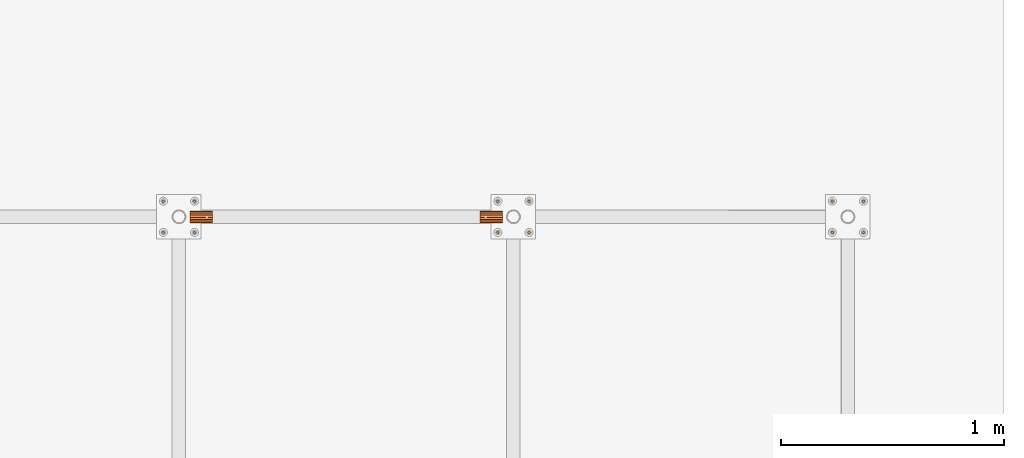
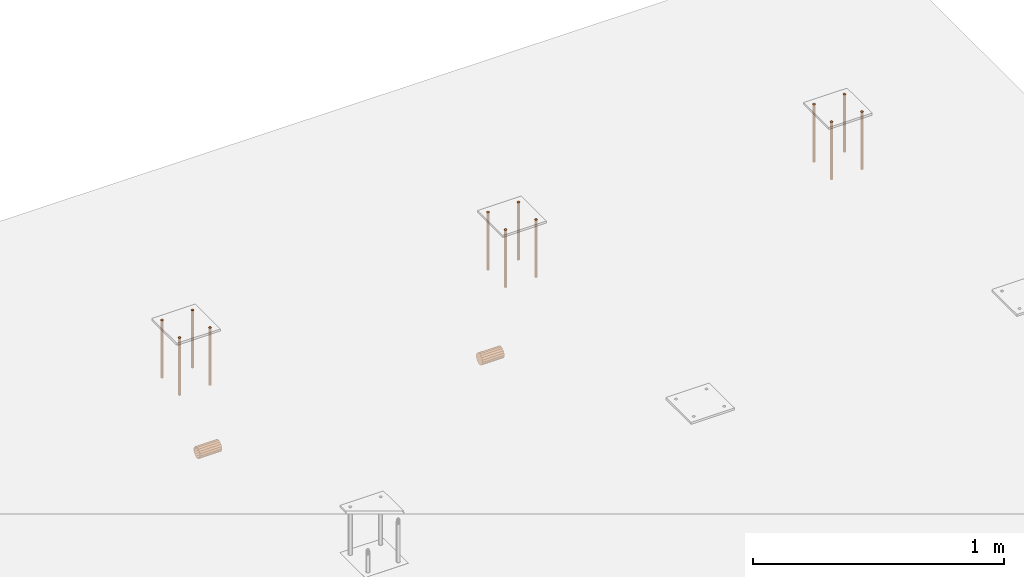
# One storey, part 18 of 30: 14 proxies.
"""IFC2X3 building model written with IfcOpenShell, lengths in millimetres."""

from ifc_helpers import new_model, entity, si_unit, converted_unit, origin_with_axes, place, context, project, spatial, faceted_brep, material, element, save


model = new_model("IFC2X3")

# Units and contexts
model_context = context("Model", 3, precision=1e-09, world=origin_with_axes())
ifc_project = project(units=[si_unit("LENGTHUNIT", "METRE", prefix="MILLI"), si_unit("AREAUNIT", "SQUARE_METRE"), si_unit("VOLUMEUNIT", "CUBIC_METRE"), converted_unit("PLANEANGLEUNIT", "DEGREE", entity("IfcPlaneAngleMeasure", 0.01745329), si_unit("PLANEANGLEUNIT", "RADIAN"), dimensions=[0, 0, 0, 0, 0, 0, 0])], contexts=[model_context])

# Site, building, storey
site_placement = place(None, origin_with_axes())
site = spatial("IfcSite", under=ifc_project, at=site_placement, Name="M?nsinger Stra?e, 81477 M?nchen", CompositionType="ELEMENT")
building_placement = place(site_placement, origin_with_axes())
building = spatial("IfcBuilding", under=site, at=building_placement, Name="Struktur 1", CompositionType="ELEMENT")
storey_placement = place(building_placement, origin_with_axes())
storey = spatial("IfcBuildingStorey", under=building, at=storey_placement, Name="Default Storey", CompositionType="ELEMENT", Elevation=0.0)

# Proxies
ifc_material_1 = material(Name="S235JR")
proxy_1_placement = place(None, origin_with_axes())
element("IfcBuildingElementProxy", 1, at=proxy_1_placement, inside=storey, material=ifc_material_1, ObjectType="-", context=model_context, shape_type="Brep", body=[
    faceted_brep([(6056.315117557, 4514.006567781, 6095.917939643), (6056.315117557, 4517.557789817, 6105.084700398), (6056.315117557, 4517.557789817, 6114.915299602), (6056.315117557, 4514.006567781, 6124.082060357), (6056.315117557, 4507.383735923, 6131.34696083), (6056.315117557, 4498.583744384, 6135.728835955), (6056.315117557, 4488.795080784, 6136.635889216), (6056.315117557, 4479.339758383, 6133.945618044), (6056.315117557, 4471.494770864, 6128.021358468), (6056.315117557, 4466.319627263, 6119.663214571), (6056.315117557, 4464.5132594, 6110.0), (6056.315117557, 4466.319627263, 6100.336785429), (6056.315117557, 4471.494770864, 6091.978641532), (6056.315117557, 4479.339758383, 6086.054381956), (6056.315117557, 4488.795080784, 6083.364110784), (6056.315117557, 4498.583744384, 6084.271164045), (6056.315117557, 4507.383735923, 6088.65303917), (6056.315117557, 4516.2632594, 6110.0), (6056.315117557, 4514.360247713, 6100.432914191), (6056.315117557, 4508.94092893, 6092.32233047), (6056.315117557, 4500.830345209, 6086.903011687), (6056.315117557, 4491.2632594, 6085.0), (6056.315117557, 4481.696173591, 6086.903011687), (6056.315117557, 4473.58558987, 6092.32233047), (6056.315117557, 4468.166271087, 6100.432914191), (6056.315117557, 4466.2632594, 6110.0), (6056.315117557, 4468.166271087, 6119.567085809), (6056.315117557, 4473.58558987, 6127.67766953), (6056.315117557, 4481.696173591, 6133.096988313), (6056.315117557, 4491.2632594, 6135.0), (6056.315117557, 4500.830345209, 6133.096988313), (6056.315117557, 4508.94092893, 6127.67766953), (6056.315117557, 4514.360247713, 6119.567085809), (5956.315117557, 4516.2632594, 6110.0), (5956.315117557, 4514.360247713, 6119.567085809), (5956.315117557, 4517.557789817, 6105.084700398), (5956.315117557, 4517.557789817, 6114.915299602), (5956.315117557, 4514.360247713, 6100.432914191), (5956.315117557, 4514.006567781, 6095.917939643), (5956.315117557, 4507.383735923, 6088.65303917), (5956.315117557, 4498.583744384, 6084.271164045), (5956.315117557, 4488.795080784, 6083.364110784), (5956.315117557, 4479.339758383, 6086.054381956), (5956.315117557, 4471.494770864, 6091.978641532), (5956.315117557, 4466.319627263, 6100.336785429), (5956.315117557, 4464.5132594, 6110.0), (5956.315117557, 4466.319627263, 6119.663214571), (5956.315117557, 4471.494770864, 6128.021358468), (5956.315117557, 4479.339758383, 6133.945618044), (5956.315117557, 4488.795080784, 6136.635889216), (5956.315117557, 4498.583744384, 6135.728835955), (5956.315117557, 4507.383735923, 6131.34696083), (5956.315117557, 4514.006567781, 6124.082060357), (5956.315117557, 4508.94092893, 6092.32233047), (5956.315117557, 4508.94092893, 6127.67766953), (5956.315117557, 4500.830345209, 6133.096988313), (5956.315117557, 4491.2632594, 6135.0), (5956.315117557, 4481.696173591, 6133.096988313), (5956.315117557, 4473.58558987, 6127.67766953), (5956.315117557, 4468.166271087, 6119.567085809), (5956.315117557, 4466.2632594, 6110.0), (5956.315117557, 4468.166271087, 6100.432914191), (5956.315117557, 4473.58558987, 6092.32233047), (5956.315117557, 4481.696173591, 6086.903011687), (5956.315117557, 4491.2632594, 6085.0), (5956.315117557, 4500.830345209, 6086.903011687)], [[[0, 1, 2, 3, 4, 5, 6, 7, 8, 9, 10, 11, 12, 13, 14, 15, 16], [17, 18, 19, 20, 21, 22, 23, 24, 25, 26, 27, 28, 29, 30, 31, 32]], [[33, 17, 32, 34]], [[2, 1, 35, 36]], [[17, 33, 37, 18]], [[35, 38, 39, 40, 41, 42, 43, 44, 45, 46, 47, 48, 49, 50, 51, 52, 36], [53, 37, 33, 34, 54, 55, 56, 57, 58, 59, 60, 61, 62, 63, 64, 65]], [[36, 52, 3, 2]], [[1, 0, 38, 35]], [[34, 32, 31, 54]], [[18, 37, 53, 19]], [[52, 51, 4, 3]], [[0, 16, 39, 38]], [[54, 31, 30, 55]], [[19, 53, 65, 20]], [[51, 50, 5, 4]], [[16, 15, 40, 39]], [[55, 30, 29, 56]], [[20, 65, 64, 21]], [[50, 49, 6, 5]], [[15, 14, 41, 40]], [[56, 29, 28, 57]], [[21, 64, 63, 22]], [[49, 48, 7, 6]], [[14, 13, 42, 41]], [[57, 28, 27, 58]], [[22, 63, 62, 23]], [[48, 47, 8, 7]], [[13, 12, 43, 42]], [[58, 27, 26, 59]], [[23, 62, 61, 24]], [[47, 46, 9, 8]], [[12, 11, 44, 43]], [[59, 26, 25, 60]], [[24, 61, 60, 25]], [[46, 45, 10, 9]], [[11, 10, 45, 44]]]),
])
proxy_2_placement = place(None, origin_with_axes())
element("IfcBuildingElementProxy", 2, at=proxy_2_placement, inside=storey, material=ifc_material_1, ObjectType="-", context=model_context, shape_type="Brep", body=[
    faceted_brep([(7256.315117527, 4517.557789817, 6105.084700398), (7256.315117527, 4514.006567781, 6095.917939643), (7256.315117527, 4507.383735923, 6088.65303917), (7256.315117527, 4498.583744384, 6084.271164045), (7256.315117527, 4488.795080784, 6083.364110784), (7256.315117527, 4479.339758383, 6086.054381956), (7256.315117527, 4471.494770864, 6091.978641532), (7256.315117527, 4466.319627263, 6100.336785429), (7256.315117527, 4464.5132594, 6110.0), (7256.315117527, 4466.319627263, 6119.663214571), (7256.315117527, 4471.494770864, 6128.021358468), (7256.315117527, 4479.339758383, 6133.945618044), (7256.315117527, 4488.795080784, 6136.635889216), (7256.315117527, 4498.583744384, 6135.728835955), (7256.315117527, 4507.383735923, 6131.34696083), (7256.315117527, 4514.006567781, 6124.082060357), (7256.315117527, 4517.557789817, 6114.915299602), (7256.315117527, 4516.2632594, 6110.0), (7356.315117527, 4516.2632594, 6110.0), (7356.315117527, 4514.360247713, 6119.567085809), (7256.315117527, 4514.360247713, 6119.567085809), (7356.315117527, 4517.557789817, 6114.915299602), (7356.315117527, 4517.557789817, 6105.084700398), (7256.315117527, 4514.360247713, 6100.432914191), (7356.315117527, 4514.360247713, 6100.432914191), (7356.315117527, 4514.006567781, 6124.082060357), (7356.315117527, 4507.383735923, 6131.34696083), (7356.315117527, 4498.583744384, 6135.728835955), (7356.315117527, 4488.795080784, 6136.635889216), (7356.315117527, 4479.339758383, 6133.945618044), (7356.315117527, 4471.494770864, 6128.021358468), (7356.315117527, 4466.319627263, 6119.663214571), (7356.315117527, 4464.5132594, 6110.0), (7356.315117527, 4466.319627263, 6100.336785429), (7356.315117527, 4471.494770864, 6091.978641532), (7356.315117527, 4479.339758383, 6086.054381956), (7356.315117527, 4488.795080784, 6083.364110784), (7356.315117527, 4498.583744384, 6084.271164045), (7356.315117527, 4507.383735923, 6088.65303917), (7356.315117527, 4514.006567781, 6095.917939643), (7356.315117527, 4508.94092893, 6092.32233047), (7356.315117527, 4500.830345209, 6086.903011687), (7356.315117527, 4491.2632594, 6085.0), (7356.315117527, 4481.696173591, 6086.903011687), (7356.315117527, 4473.58558987, 6092.32233047), (7356.315117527, 4468.166271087, 6100.432914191), (7356.315117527, 4466.2632594, 6110.0), (7356.315117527, 4468.166271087, 6119.567085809), (7356.315117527, 4473.58558987, 6127.67766953), (7356.315117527, 4481.696173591, 6133.096988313), (7356.315117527, 4491.2632594, 6135.0), (7356.315117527, 4500.830345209, 6133.096988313), (7356.315117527, 4508.94092893, 6127.67766953), (7256.315117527, 4508.94092893, 6127.67766953), (7256.315117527, 4508.94092893, 6092.32233047), (7256.315117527, 4500.830345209, 6133.096988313), (7256.315117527, 4500.830345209, 6086.903011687), (7256.315117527, 4491.2632594, 6135.0), (7256.315117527, 4491.2632594, 6085.0), (7256.315117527, 4481.696173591, 6133.096988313), (7256.315117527, 4481.696173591, 6086.903011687), (7256.315117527, 4473.58558987, 6127.67766953), (7256.315117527, 4473.58558987, 6092.32233047), (7256.315117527, 4468.166271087, 6119.567085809), (7256.315117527, 4468.166271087, 6100.432914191), (7256.315117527, 4466.2632594, 6110.0)], [[[0, 1, 2, 3, 4, 5, 6, 7, 8, 9, 10, 11, 12, 13, 14, 15, 16]], [[17, 18, 19, 20]], [[0, 16, 21, 22]], [[18, 17, 23, 24]], [[22, 21, 25, 26, 27, 28, 29, 30, 31, 32, 33, 34, 35, 36, 37, 38, 39], [24, 40, 41, 42, 43, 44, 45, 46, 47, 48, 49, 50, 51, 52, 19, 18]], [[25, 21, 16, 15]], [[1, 0, 22, 39]], [[20, 19, 52, 53]], [[24, 23, 54, 40]], [[26, 25, 15, 14]], [[2, 1, 39, 38]], [[53, 52, 51, 55]], [[40, 54, 56, 41]], [[27, 26, 14, 13]], [[3, 2, 38, 37]], [[55, 51, 50, 57]], [[41, 56, 58, 42]], [[28, 27, 13, 12]], [[4, 3, 37, 36]], [[57, 50, 49, 59]], [[42, 58, 60, 43]], [[29, 28, 12, 11]], [[5, 4, 36, 35]], [[59, 49, 48, 61]], [[43, 60, 62, 44]], [[30, 29, 11, 10]], [[6, 5, 35, 34]], [[61, 48, 47, 63]], [[44, 62, 64, 45]], [[31, 30, 10, 9]], [[7, 6, 34, 33]], [[63, 47, 46, 65]], [[45, 64, 65, 46]], [[32, 31, 9, 8]], [[8, 7, 33, 32]]]),
])
ifc_material_2 = material(Name="Kein")
proxy_3_placement = place(None, origin_with_axes())
element("IfcBuildingElementProxy", 3, at=proxy_3_placement, inside=storey, material=ifc_material_2, ObjectType="-", context=model_context, shape_type="Brep", body=[
    faceted_brep([(8976.315117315, 4555.2632594, 6755.0), (8976.315117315, 4555.2632594, 6475.0), (8979.315117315, 4556.067106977, 6475.0), (8979.315117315, 4556.067106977, 6755.0), (8973.315117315, 4556.067106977, 6755.0), (8973.315117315, 4556.067106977, 6475.0), (8971.118964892, 4564.2632594, 6475.0), (8973.315117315, 4566.459411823, 6475.0), (8976.315117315, 4567.2632594, 6475.0), (8979.315117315, 4566.459411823, 6475.0), (8981.511269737, 4564.2632594, 6475.0), (8982.315117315, 4561.2632594, 6475.0), (8981.511269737, 4558.2632594, 6475.0), (8971.118964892, 4558.2632594, 6475.0), (8970.315117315, 4561.2632594, 6475.0), (8981.511269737, 4564.2632594, 6755.0), (8979.315117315, 4566.459411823, 6755.0), (8976.315117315, 4567.2632594, 6755.0), (8973.315117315, 4566.459411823, 6755.0), (8971.118964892, 4564.2632594, 6755.0), (8970.315117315, 4561.2632594, 6755.0), (8971.118964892, 4558.2632594, 6755.0), (8981.511269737, 4558.2632594, 6755.0), (8982.315117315, 4561.2632594, 6755.0)], [[[0, 1, 2, 3]], [[1, 0, 4, 5]], [[6, 7, 8, 9, 10, 11, 12, 2, 1, 5, 13, 14]], [[15, 16, 17, 18, 19, 20, 21, 4, 0, 3, 22, 23]], [[3, 2, 12, 22]], [[5, 4, 21, 13]], [[11, 23, 22, 12]], [[10, 15, 23, 11]], [[13, 21, 20, 14]], [[16, 9, 8, 17]], [[15, 10, 9, 16]], [[17, 8, 7, 18]], [[14, 20, 19, 6]], [[18, 7, 6, 19]]]),
])
proxy_4_placement = place(None, origin_with_axes())
element("IfcBuildingElementProxy", 4, at=proxy_4_placement, inside=storey, material=ifc_material_2, ObjectType="-", context=model_context, shape_type="Brep", body=[
    faceted_brep([(8836.315117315, 4555.2632594, 6755.0), (8836.315117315, 4555.2632594, 6475.0), (8839.315117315, 4556.067106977, 6475.0), (8839.315117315, 4556.067106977, 6755.0), (8833.315117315, 4556.067106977, 6755.0), (8833.315117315, 4556.067106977, 6475.0), (8831.118964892, 4564.2632594, 6475.0), (8833.315117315, 4566.459411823, 6475.0), (8836.315117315, 4567.2632594, 6475.0), (8839.315117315, 4566.459411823, 6475.0), (8841.511269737, 4564.2632594, 6475.0), (8842.315117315, 4561.2632594, 6475.0), (8841.511269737, 4558.2632594, 6475.0), (8831.118964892, 4558.2632594, 6475.0), (8830.315117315, 4561.2632594, 6475.0), (8841.511269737, 4564.2632594, 6755.0), (8839.315117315, 4566.459411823, 6755.0), (8836.315117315, 4567.2632594, 6755.0), (8833.315117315, 4566.459411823, 6755.0), (8831.118964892, 4564.2632594, 6755.0), (8830.315117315, 4561.2632594, 6755.0), (8831.118964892, 4558.2632594, 6755.0), (8841.511269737, 4558.2632594, 6755.0), (8842.315117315, 4561.2632594, 6755.0)], [[[0, 1, 2, 3]], [[1, 0, 4, 5]], [[6, 7, 8, 9, 10, 11, 12, 2, 1, 5, 13, 14]], [[15, 16, 17, 18, 19, 20, 21, 4, 0, 3, 22, 23]], [[3, 2, 12, 22]], [[5, 4, 21, 13]], [[11, 23, 22, 12]], [[10, 15, 23, 11]], [[13, 21, 20, 14]], [[16, 9, 8, 17]], [[15, 10, 9, 16]], [[17, 8, 7, 18]], [[14, 20, 19, 6]], [[18, 7, 6, 19]]]),
])
proxy_5_placement = place(None, origin_with_axes())
element("IfcBuildingElementProxy", 5, at=proxy_5_placement, inside=storey, material=ifc_material_2, ObjectType="-", context=model_context, shape_type="Brep", body=[
    faceted_brep([(8976.315117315, 4415.2632594, 6755.0), (8976.315117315, 4415.2632594, 6475.0), (8979.315117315, 4416.067106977, 6475.0), (8979.315117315, 4416.067106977, 6755.0), (8973.315117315, 4416.067106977, 6755.0), (8973.315117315, 4416.067106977, 6475.0), (8971.118964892, 4424.2632594, 6475.0), (8973.315117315, 4426.459411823, 6475.0), (8976.315117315, 4427.2632594, 6475.0), (8979.315117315, 4426.459411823, 6475.0), (8981.511269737, 4424.2632594, 6475.0), (8982.315117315, 4421.2632594, 6475.0), (8981.511269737, 4418.2632594, 6475.0), (8971.118964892, 4418.2632594, 6475.0), (8970.315117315, 4421.2632594, 6475.0), (8981.511269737, 4424.2632594, 6755.0), (8979.315117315, 4426.459411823, 6755.0), (8976.315117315, 4427.2632594, 6755.0), (8973.315117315, 4426.459411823, 6755.0), (8971.118964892, 4424.2632594, 6755.0), (8970.315117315, 4421.2632594, 6755.0), (8971.118964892, 4418.2632594, 6755.0), (8981.511269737, 4418.2632594, 6755.0), (8982.315117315, 4421.2632594, 6755.0)], [[[0, 1, 2, 3]], [[1, 0, 4, 5]], [[6, 7, 8, 9, 10, 11, 12, 2, 1, 5, 13, 14]], [[15, 16, 17, 18, 19, 20, 21, 4, 0, 3, 22, 23]], [[3, 2, 12, 22]], [[5, 4, 21, 13]], [[11, 23, 22, 12]], [[10, 15, 23, 11]], [[13, 21, 20, 14]], [[16, 9, 8, 17]], [[15, 10, 9, 16]], [[17, 8, 7, 18]], [[14, 20, 19, 6]], [[18, 7, 6, 19]]]),
])
proxy_6_placement = place(None, origin_with_axes())
element("IfcBuildingElementProxy", 6, at=proxy_6_placement, inside=storey, material=ifc_material_2, ObjectType="-", context=model_context, shape_type="Brep", body=[
    faceted_brep([(8836.315117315, 4415.2632594, 6755.0), (8836.315117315, 4415.2632594, 6475.0), (8839.315117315, 4416.067106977, 6475.0), (8839.315117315, 4416.067106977, 6755.0), (8833.315117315, 4416.067106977, 6755.0), (8833.315117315, 4416.067106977, 6475.0), (8831.118964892, 4424.2632594, 6475.0), (8833.315117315, 4426.459411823, 6475.0), (8836.315117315, 4427.2632594, 6475.0), (8839.315117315, 4426.459411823, 6475.0), (8841.511269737, 4424.2632594, 6475.0), (8842.315117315, 4421.2632594, 6475.0), (8841.511269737, 4418.2632594, 6475.0), (8831.118964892, 4418.2632594, 6475.0), (8830.315117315, 4421.2632594, 6475.0), (8841.511269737, 4424.2632594, 6755.0), (8839.315117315, 4426.459411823, 6755.0), (8836.315117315, 4427.2632594, 6755.0), (8833.315117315, 4426.459411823, 6755.0), (8831.118964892, 4424.2632594, 6755.0), (8830.315117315, 4421.2632594, 6755.0), (8831.118964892, 4418.2632594, 6755.0), (8841.511269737, 4418.2632594, 6755.0), (8842.315117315, 4421.2632594, 6755.0)], [[[0, 1, 2, 3]], [[1, 0, 4, 5]], [[6, 7, 8, 9, 10, 11, 12, 2, 1, 5, 13, 14]], [[15, 16, 17, 18, 19, 20, 21, 4, 0, 3, 22, 23]], [[3, 2, 12, 22]], [[5, 4, 21, 13]], [[11, 23, 22, 12]], [[10, 15, 23, 11]], [[13, 21, 20, 14]], [[16, 9, 8, 17]], [[15, 10, 9, 16]], [[17, 8, 7, 18]], [[14, 20, 19, 6]], [[18, 7, 6, 19]]]),
])
proxy_7_placement = place(None, origin_with_axes())
element("IfcBuildingElementProxy", 7, at=proxy_7_placement, inside=storey, material=ifc_material_2, ObjectType="-", context=model_context, shape_type="Brep", body=[
    faceted_brep([(5830.315117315, 4561.2632594, 6475.0), (5830.315117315, 4561.2632594, 6755.0), (5831.118964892, 4564.2632594, 6755.0), (5831.118964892, 4564.2632594, 6475.0), (5831.118964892, 4558.2632594, 6475.0), (5831.118964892, 4558.2632594, 6755.0), (5841.511269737, 4558.2632594, 6475.0), (5839.315117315, 4556.067106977, 6475.0), (5836.315117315, 4555.2632594, 6475.0), (5833.315117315, 4556.067106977, 6475.0), (5833.315117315, 4566.459411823, 6475.0), (5836.315117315, 4567.2632594, 6475.0), (5839.315117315, 4566.459411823, 6475.0), (5841.511269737, 4564.2632594, 6475.0), (5842.315117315, 4561.2632594, 6475.0), (5841.511269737, 4564.2632594, 6755.0), (5839.315117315, 4566.459411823, 6755.0), (5836.315117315, 4567.2632594, 6755.0), (5833.315117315, 4566.459411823, 6755.0), (5833.315117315, 4556.067106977, 6755.0), (5836.315117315, 4555.2632594, 6755.0), (5839.315117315, 4556.067106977, 6755.0), (5841.511269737, 4558.2632594, 6755.0), (5842.315117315, 4561.2632594, 6755.0)], [[[0, 1, 2, 3]], [[1, 0, 4, 5]], [[6, 7, 8, 9, 4, 0, 3, 10, 11, 12, 13, 14]], [[15, 16, 17, 18, 2, 1, 5, 19, 20, 21, 22, 23]], [[3, 2, 18, 10]], [[5, 4, 9, 19]], [[17, 11, 10, 18]], [[16, 12, 11, 17]], [[19, 9, 8, 20]], [[13, 15, 23, 14]], [[12, 16, 15, 13]], [[14, 23, 22, 6]], [[20, 8, 7, 21]], [[6, 22, 21, 7]]]),
])
proxy_8_placement = place(None, origin_with_axes())
element("IfcBuildingElementProxy", 8, at=proxy_8_placement, inside=storey, material=ifc_material_2, ObjectType="-", context=model_context, shape_type="Brep", body=[
    faceted_brep([(5830.315117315, 4421.2632594, 6475.0), (5830.315117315, 4421.2632594, 6755.0), (5831.118964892, 4424.2632594, 6755.0), (5831.118964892, 4424.2632594, 6475.0), (5831.118964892, 4418.2632594, 6475.0), (5831.118964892, 4418.2632594, 6755.0), (5841.511269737, 4418.2632594, 6475.0), (5839.315117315, 4416.067106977, 6475.0), (5836.315117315, 4415.2632594, 6475.0), (5833.315117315, 4416.067106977, 6475.0), (5833.315117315, 4426.459411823, 6475.0), (5836.315117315, 4427.2632594, 6475.0), (5839.315117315, 4426.459411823, 6475.0), (5841.511269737, 4424.2632594, 6475.0), (5842.315117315, 4421.2632594, 6475.0), (5841.511269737, 4424.2632594, 6755.0), (5839.315117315, 4426.459411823, 6755.0), (5836.315117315, 4427.2632594, 6755.0), (5833.315117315, 4426.459411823, 6755.0), (5833.315117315, 4416.067106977, 6755.0), (5836.315117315, 4415.2632594, 6755.0), (5839.315117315, 4416.067106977, 6755.0), (5841.511269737, 4418.2632594, 6755.0), (5842.315117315, 4421.2632594, 6755.0)], [[[0, 1, 2, 3]], [[1, 0, 4, 5]], [[6, 7, 8, 9, 4, 0, 3, 10, 11, 12, 13, 14]], [[15, 16, 17, 18, 2, 1, 5, 19, 20, 21, 22, 23]], [[3, 2, 18, 10]], [[5, 4, 9, 19]], [[17, 11, 10, 18]], [[16, 12, 11, 17]], [[19, 9, 8, 20]], [[13, 15, 23, 14]], [[12, 16, 15, 13]], [[14, 23, 22, 6]], [[20, 8, 7, 21]], [[6, 22, 21, 7]]]),
])
proxy_9_placement = place(None, origin_with_axes())
element("IfcBuildingElementProxy", 9, at=proxy_9_placement, inside=storey, material=ifc_material_2, ObjectType="-", context=model_context, shape_type="Brep", body=[
    faceted_brep([(5970.315117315, 4561.2632594, 6475.0), (5970.315117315, 4561.2632594, 6755.0), (5971.118964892, 4564.2632594, 6755.0), (5971.118964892, 4564.2632594, 6475.0), (5971.118964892, 4558.2632594, 6475.0), (5971.118964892, 4558.2632594, 6755.0), (5981.511269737, 4558.2632594, 6475.0), (5979.315117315, 4556.067106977, 6475.0), (5976.315117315, 4555.2632594, 6475.0), (5973.315117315, 4556.067106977, 6475.0), (5973.315117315, 4566.459411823, 6475.0), (5976.315117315, 4567.2632594, 6475.0), (5979.315117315, 4566.459411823, 6475.0), (5981.511269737, 4564.2632594, 6475.0), (5982.315117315, 4561.2632594, 6475.0), (5981.511269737, 4564.2632594, 6755.0), (5979.315117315, 4566.459411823, 6755.0), (5976.315117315, 4567.2632594, 6755.0), (5973.315117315, 4566.459411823, 6755.0), (5973.315117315, 4556.067106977, 6755.0), (5976.315117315, 4555.2632594, 6755.0), (5979.315117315, 4556.067106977, 6755.0), (5981.511269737, 4558.2632594, 6755.0), (5982.315117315, 4561.2632594, 6755.0)], [[[0, 1, 2, 3]], [[1, 0, 4, 5]], [[6, 7, 8, 9, 4, 0, 3, 10, 11, 12, 13, 14]], [[15, 16, 17, 18, 2, 1, 5, 19, 20, 21, 22, 23]], [[3, 2, 18, 10]], [[5, 4, 9, 19]], [[17, 11, 10, 18]], [[16, 12, 11, 17]], [[19, 9, 8, 20]], [[13, 15, 23, 14]], [[12, 16, 15, 13]], [[14, 23, 22, 6]], [[20, 8, 7, 21]], [[6, 22, 21, 7]]]),
])
proxy_10_placement = place(None, origin_with_axes())
element("IfcBuildingElementProxy", 10, at=proxy_10_placement, inside=storey, material=ifc_material_2, ObjectType="-", context=model_context, shape_type="Brep", body=[
    faceted_brep([(5970.315117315, 4421.2632594, 6475.0), (5970.315117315, 4421.2632594, 6755.0), (5971.118964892, 4424.2632594, 6755.0), (5971.118964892, 4424.2632594, 6475.0), (5971.118964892, 4418.2632594, 6475.0), (5971.118964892, 4418.2632594, 6755.0), (5981.511269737, 4418.2632594, 6475.0), (5979.315117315, 4416.067106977, 6475.0), (5976.315117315, 4415.2632594, 6475.0), (5973.315117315, 4416.067106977, 6475.0), (5973.315117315, 4426.459411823, 6475.0), (5976.315117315, 4427.2632594, 6475.0), (5979.315117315, 4426.459411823, 6475.0), (5981.511269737, 4424.2632594, 6475.0), (5982.315117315, 4421.2632594, 6475.0), (5981.511269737, 4424.2632594, 6755.0), (5979.315117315, 4426.459411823, 6755.0), (5976.315117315, 4427.2632594, 6755.0), (5973.315117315, 4426.459411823, 6755.0), (5973.315117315, 4416.067106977, 6755.0), (5976.315117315, 4415.2632594, 6755.0), (5979.315117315, 4416.067106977, 6755.0), (5981.511269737, 4418.2632594, 6755.0), (5982.315117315, 4421.2632594, 6755.0)], [[[0, 1, 2, 3]], [[1, 0, 4, 5]], [[6, 7, 8, 9, 4, 0, 3, 10, 11, 12, 13, 14]], [[15, 16, 17, 18, 2, 1, 5, 19, 20, 21, 22, 23]], [[3, 2, 18, 10]], [[5, 4, 9, 19]], [[17, 11, 10, 18]], [[16, 12, 11, 17]], [[19, 9, 8, 20]], [[13, 15, 23, 14]], [[12, 16, 15, 13]], [[14, 23, 22, 6]], [[20, 8, 7, 21]], [[6, 22, 21, 7]]]),
])
proxy_11_placement = place(None, origin_with_axes())
element("IfcBuildingElementProxy", 11, at=proxy_11_placement, inside=storey, material=ifc_material_2, ObjectType="-", context=model_context, shape_type="Brep", body=[
    faceted_brep([(7330.315117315, 4561.2632594, 6475.0), (7330.315117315, 4561.2632594, 6755.0), (7331.118964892, 4564.2632594, 6755.0), (7331.118964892, 4564.2632594, 6475.0), (7331.118964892, 4558.2632594, 6475.0), (7331.118964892, 4558.2632594, 6755.0), (7341.511269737, 4558.2632594, 6475.0), (7339.315117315, 4556.067106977, 6475.0), (7336.315117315, 4555.2632594, 6475.0), (7333.315117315, 4556.067106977, 6475.0), (7333.315117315, 4566.459411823, 6475.0), (7336.315117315, 4567.2632594, 6475.0), (7339.315117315, 4566.459411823, 6475.0), (7341.511269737, 4564.2632594, 6475.0), (7342.315117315, 4561.2632594, 6475.0), (7341.511269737, 4564.2632594, 6755.0), (7339.315117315, 4566.459411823, 6755.0), (7336.315117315, 4567.2632594, 6755.0), (7333.315117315, 4566.459411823, 6755.0), (7333.315117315, 4556.067106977, 6755.0), (7336.315117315, 4555.2632594, 6755.0), (7339.315117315, 4556.067106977, 6755.0), (7341.511269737, 4558.2632594, 6755.0), (7342.315117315, 4561.2632594, 6755.0)], [[[0, 1, 2, 3]], [[1, 0, 4, 5]], [[6, 7, 8, 9, 4, 0, 3, 10, 11, 12, 13, 14]], [[15, 16, 17, 18, 2, 1, 5, 19, 20, 21, 22, 23]], [[3, 2, 18, 10]], [[5, 4, 9, 19]], [[17, 11, 10, 18]], [[16, 12, 11, 17]], [[19, 9, 8, 20]], [[13, 15, 23, 14]], [[12, 16, 15, 13]], [[14, 23, 22, 6]], [[20, 8, 7, 21]], [[6, 22, 21, 7]]]),
])
proxy_12_placement = place(None, origin_with_axes())
element("IfcBuildingElementProxy", 12, at=proxy_12_placement, inside=storey, material=ifc_material_2, ObjectType="-", context=model_context, shape_type="Brep", body=[
    faceted_brep([(7330.315117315, 4421.2632594, 6475.0), (7330.315117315, 4421.2632594, 6755.0), (7331.118964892, 4424.2632594, 6755.0), (7331.118964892, 4424.2632594, 6475.0), (7331.118964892, 4418.2632594, 6475.0), (7331.118964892, 4418.2632594, 6755.0), (7341.511269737, 4418.2632594, 6475.0), (7339.315117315, 4416.067106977, 6475.0), (7336.315117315, 4415.2632594, 6475.0), (7333.315117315, 4416.067106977, 6475.0), (7333.315117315, 4426.459411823, 6475.0), (7336.315117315, 4427.2632594, 6475.0), (7339.315117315, 4426.459411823, 6475.0), (7341.511269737, 4424.2632594, 6475.0), (7342.315117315, 4421.2632594, 6475.0), (7341.511269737, 4424.2632594, 6755.0), (7339.315117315, 4426.459411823, 6755.0), (7336.315117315, 4427.2632594, 6755.0), (7333.315117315, 4426.459411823, 6755.0), (7333.315117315, 4416.067106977, 6755.0), (7336.315117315, 4415.2632594, 6755.0), (7339.315117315, 4416.067106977, 6755.0), (7341.511269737, 4418.2632594, 6755.0), (7342.315117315, 4421.2632594, 6755.0)], [[[0, 1, 2, 3]], [[1, 0, 4, 5]], [[6, 7, 8, 9, 4, 0, 3, 10, 11, 12, 13, 14]], [[15, 16, 17, 18, 2, 1, 5, 19, 20, 21, 22, 23]], [[3, 2, 18, 10]], [[5, 4, 9, 19]], [[17, 11, 10, 18]], [[16, 12, 11, 17]], [[19, 9, 8, 20]], [[13, 15, 23, 14]], [[12, 16, 15, 13]], [[14, 23, 22, 6]], [[20, 8, 7, 21]], [[6, 22, 21, 7]]]),
])
proxy_13_placement = place(None, origin_with_axes())
element("IfcBuildingElementProxy", 13, at=proxy_13_placement, inside=storey, material=ifc_material_2, ObjectType="-", context=model_context, shape_type="Brep", body=[
    faceted_brep([(7470.315117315, 4561.2632594, 6475.0), (7470.315117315, 4561.2632594, 6755.0), (7471.118964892, 4564.2632594, 6755.0), (7471.118964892, 4564.2632594, 6475.0), (7471.118964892, 4558.2632594, 6475.0), (7471.118964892, 4558.2632594, 6755.0), (7481.511269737, 4558.2632594, 6475.0), (7479.315117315, 4556.067106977, 6475.0), (7476.315117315, 4555.2632594, 6475.0), (7473.315117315, 4556.067106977, 6475.0), (7473.315117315, 4566.459411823, 6475.0), (7476.315117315, 4567.2632594, 6475.0), (7479.315117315, 4566.459411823, 6475.0), (7481.511269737, 4564.2632594, 6475.0), (7482.315117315, 4561.2632594, 6475.0), (7481.511269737, 4564.2632594, 6755.0), (7479.315117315, 4566.459411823, 6755.0), (7476.315117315, 4567.2632594, 6755.0), (7473.315117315, 4566.459411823, 6755.0), (7473.315117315, 4556.067106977, 6755.0), (7476.315117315, 4555.2632594, 6755.0), (7479.315117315, 4556.067106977, 6755.0), (7481.511269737, 4558.2632594, 6755.0), (7482.315117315, 4561.2632594, 6755.0)], [[[0, 1, 2, 3]], [[1, 0, 4, 5]], [[6, 7, 8, 9, 4, 0, 3, 10, 11, 12, 13, 14]], [[15, 16, 17, 18, 2, 1, 5, 19, 20, 21, 22, 23]], [[3, 2, 18, 10]], [[5, 4, 9, 19]], [[17, 11, 10, 18]], [[16, 12, 11, 17]], [[19, 9, 8, 20]], [[13, 15, 23, 14]], [[12, 16, 15, 13]], [[14, 23, 22, 6]], [[20, 8, 7, 21]], [[6, 22, 21, 7]]]),
])
proxy_14_placement = place(None, origin_with_axes())
element("IfcBuildingElementProxy", 14, at=proxy_14_placement, inside=storey, material=ifc_material_2, ObjectType="-", context=model_context, shape_type="Brep", body=[
    faceted_brep([(7470.315117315, 4421.2632594, 6475.0), (7470.315117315, 4421.2632594, 6755.0), (7471.118964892, 4424.2632594, 6755.0), (7471.118964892, 4424.2632594, 6475.0), (7471.118964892, 4418.2632594, 6475.0), (7471.118964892, 4418.2632594, 6755.0), (7481.511269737, 4418.2632594, 6475.0), (7479.315117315, 4416.067106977, 6475.0), (7476.315117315, 4415.2632594, 6475.0), (7473.315117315, 4416.067106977, 6475.0), (7473.315117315, 4426.459411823, 6475.0), (7476.315117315, 4427.2632594, 6475.0), (7479.315117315, 4426.459411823, 6475.0), (7481.511269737, 4424.2632594, 6475.0), (7482.315117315, 4421.2632594, 6475.0), (7481.511269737, 4424.2632594, 6755.0), (7479.315117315, 4426.459411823, 6755.0), (7476.315117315, 4427.2632594, 6755.0), (7473.315117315, 4426.459411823, 6755.0), (7473.315117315, 4416.067106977, 6755.0), (7476.315117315, 4415.2632594, 6755.0), (7479.315117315, 4416.067106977, 6755.0), (7481.511269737, 4418.2632594, 6755.0), (7482.315117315, 4421.2632594, 6755.0)], [[[0, 1, 2, 3]], [[1, 0, 4, 5]], [[6, 7, 8, 9, 4, 0, 3, 10, 11, 12, 13, 14]], [[15, 16, 17, 18, 2, 1, 5, 19, 20, 21, 22, 23]], [[3, 2, 18, 10]], [[5, 4, 9, 19]], [[17, 11, 10, 18]], [[16, 12, 11, 17]], [[19, 9, 8, 20]], [[13, 15, 23, 14]], [[12, 16, 15, 13]], [[14, 23, 22, 6]], [[20, 8, 7, 21]], [[6, 22, 21, 7]]]),
])

save(model, "model.ifc")
